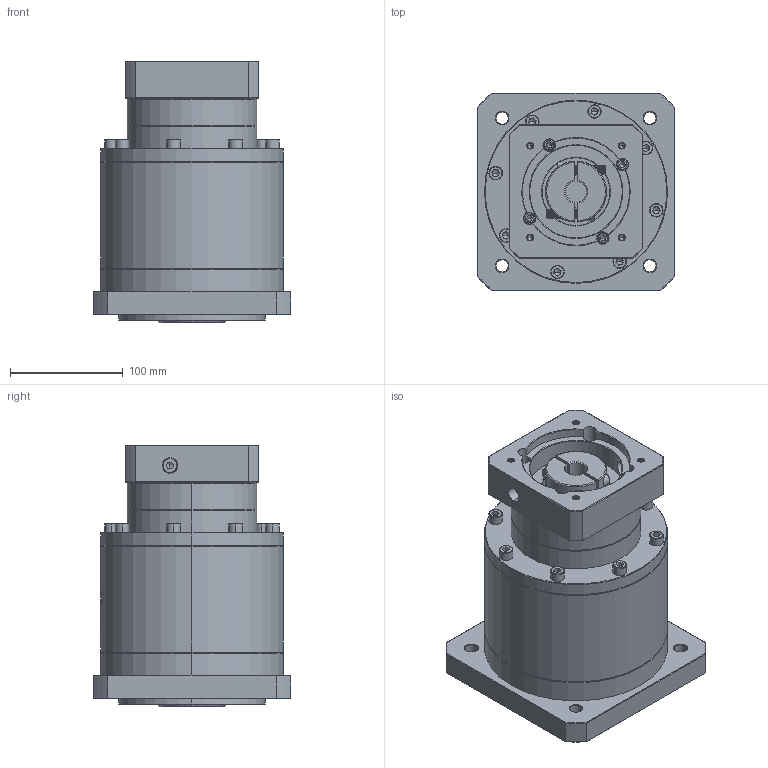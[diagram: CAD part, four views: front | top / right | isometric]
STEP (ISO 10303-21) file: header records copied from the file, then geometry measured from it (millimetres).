
FILE_DESCRIPTION (( 'STEP AP214' ), '1' );
FILE_NAME ('ZF160-K35-L3-19-95-115-M6.step', '2023-03-22T03:59:45', ( '' ), ( '' ), 'SwSTEP 2.0', 'SolidWorks 2016', '' );
FILE_SCHEMA (( 'AUTOMOTIVE_DESIGN' ));
Length unit declared in the file: millimetre
Products named in the file (1): ZF160-K35-L3-19-95-115-M6
Bounding box: 175 x 175 x 231.7 mm (x, y, z)
Volume: 3954797.2 mm3; surface area: 267394.6 mm2
Topology: 6 solids, 6 shells, 1814 faces, 4590 edges, 2897 vertices
Faces by surface type: plane 739, cylinder 446, cone 368, bspline 225, torus 36
Entity records: 92602 total; most frequent: CARTESIAN_POINT 31103, ORIENTED_EDGE 9076, DIRECTION 8028, EDGE_CURVE 4538, VERTEX_POINT 2897, AXIS2_PLACEMENT_3D 2791, LINE 2446, VECTOR 2446
